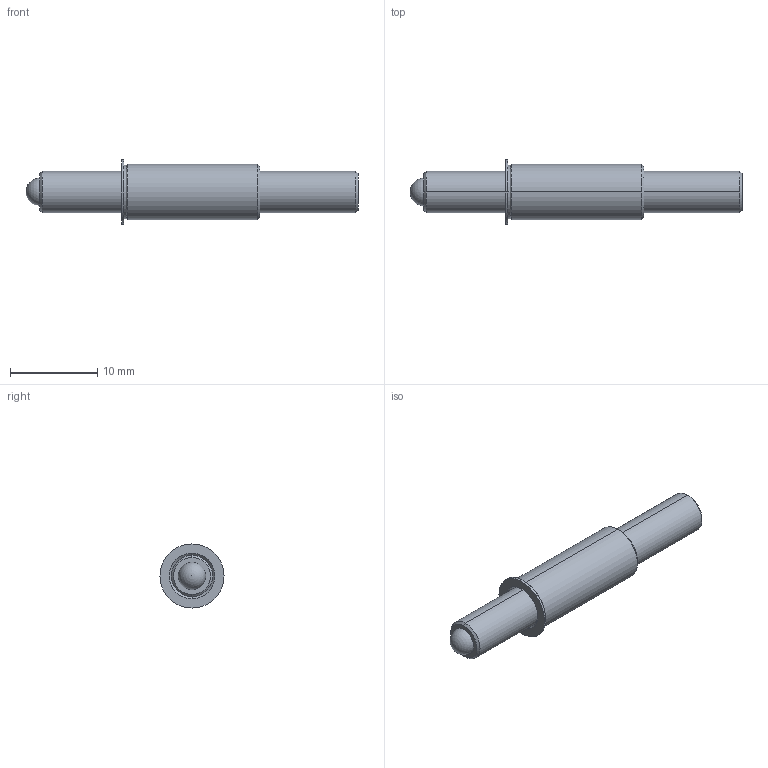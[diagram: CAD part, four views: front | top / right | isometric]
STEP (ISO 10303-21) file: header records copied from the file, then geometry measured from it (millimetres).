
FILE_DESCRIPTION (( 'STEP AP214' ), '1' );
FILE_NAME ('TSB187-100-1500_625.STEP', '2013-03-13T13:29:22', ( 'workpc' ), ( 'Microsoft' ), 'SwSTEP 2.0', 'SolidWorks 2013', '' );
FILE_SCHEMA (( 'AUTOMOTIVE_DESIGN' ));
Length unit declared in the file: inch
Products named in the file (1): TSB187-100-1500_625
Bounding box: 38.1 x 7.37 x 7.37 mm (x, y, z)
Surface area: 983.2 mm2 (no closed solid volume)
Topology: 0 solids, 3 shells, 33 faces, 77 edges, 49 vertices
Faces by surface type: cone 12, plane 11, cylinder 8, sphere 2
Entity records: 1358 total; most frequent: DIRECTION 174, CARTESIAN_POINT 152, ORIENTED_EDGE 132, EDGE_CURVE 72, AXIS2_PLACEMENT_3D 68, VERTEX_POINT 46, VECTOR 38, LINE 38
